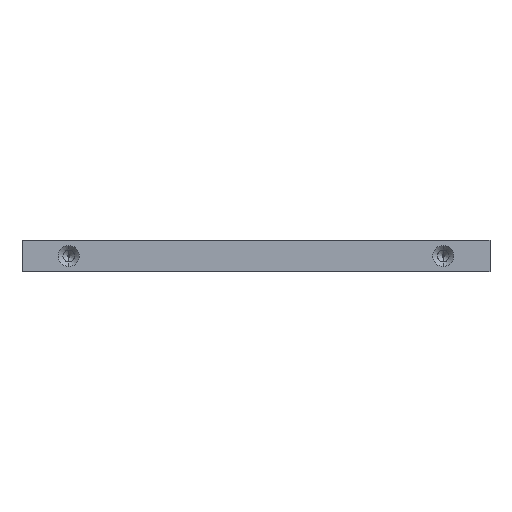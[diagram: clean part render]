
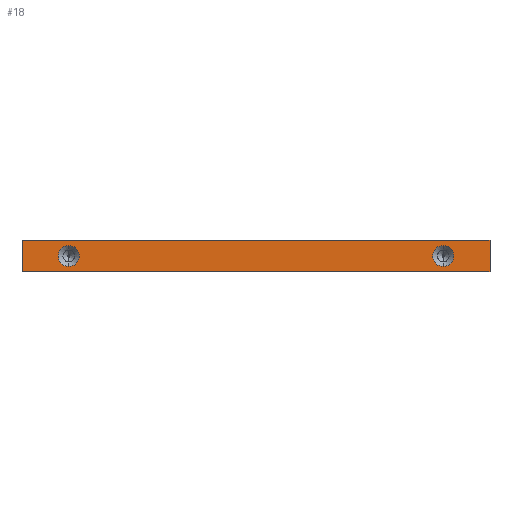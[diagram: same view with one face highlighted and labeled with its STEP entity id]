
A CAD part, front view. The second image highlights one B-rep face of the part: STEP entity #18.
In plain terms, the highlighted planar face has unit normal (0, -1, 0).
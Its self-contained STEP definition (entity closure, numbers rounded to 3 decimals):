
#18 = ADVANCED_FACE ( 'NONE', ( #990, #993, #928 ), #4133, .F. ) ;
#176 = CARTESIAN_POINT ( 'NONE',  ( -15., -15., 0. ) ) ;
#181 = DIRECTION ( 'NONE',  ( 1., 0., 0. ) ) ;
#520 = CARTESIAN_POINT ( 'NONE',  ( 15., -15., 2. ) ) ;
#521 = DIRECTION ( 'NONE',  ( 0., 0., -1. ) ) ;
#587 = CARTESIAN_POINT ( 'NONE',  ( -15., -15., 2. ) ) ;
#599 = DIRECTION ( 'NONE',  ( 1., 0., 0. ) ) ;
#605 = VERTEX_POINT ( 'NONE', #4299 ) ;
#631 = VERTEX_POINT ( 'NONE', #4282 ) ;
#645 = VERTEX_POINT ( 'NONE', #4302 ) ;
#665 = VERTEX_POINT ( 'NONE', #4327 ) ;
#691 = CARTESIAN_POINT ( 'NONE',  ( -12., -15., 1. ) ) ;
#692 = DIRECTION ( 'NONE',  ( 0., 1., 0. ) ) ;
#693 = DIRECTION ( 'NONE',  ( 0., 0., 1. ) ) ;
#698 = VERTEX_POINT ( 'NONE', #4339 ) ;
#709 = VERTEX_POINT ( 'NONE', #4330 ) ;
#741 = VERTEX_POINT ( 'NONE', #4321 ) ;
#753 = VERTEX_POINT ( 'NONE', #4372 ) ;
#784 = EDGE_LOOP ( 'NONE', ( #1389, #1454 ) ) ;
#827 = EDGE_LOOP ( 'NONE', ( #1489, #1485 ) ) ;
#842 = EDGE_LOOP ( 'NONE', ( #1453, #1476, #1505, #1452 ) ) ;
#928 = FACE_OUTER_BOUND ( 'NONE', #842, .T. ) ;
#990 = FACE_BOUND ( 'NONE', #827, .T. ) ;
#993 = FACE_BOUND ( 'NONE', #784, .T. ) ;
#1085 = DIRECTION ( 'NONE',  ( 0., 0., -1. ) ) ;
#1108 = DIRECTION ( 'NONE',  ( 0., 0., 1. ) ) ;
#1131 = CARTESIAN_POINT ( 'NONE',  ( 12., -15., 1. ) ) ;
#1142 = DIRECTION ( 'NONE',  ( 0., 1., 0. ) ) ;
#1168 = CARTESIAN_POINT ( 'NONE',  ( -15., -15., 2. ) ) ;
#1389 = ORIENTED_EDGE ( 'NONE', *, *, #1912, .T. ) ;
#1452 = ORIENTED_EDGE ( 'NONE', *, *, #1996, .T. ) ;
#1453 = ORIENTED_EDGE ( 'NONE', *, *, #1939, .T. ) ;
#1454 = ORIENTED_EDGE ( 'NONE', *, *, #1969, .T. ) ;
#1476 = ORIENTED_EDGE ( 'NONE', *, *, #1957, .F. ) ;
#1485 = ORIENTED_EDGE ( 'NONE', *, *, #1992, .T. ) ;
#1489 = ORIENTED_EDGE ( 'NONE', *, *, #2141, .T. ) ;
#1505 = ORIENTED_EDGE ( 'NONE', *, *, #1964, .F. ) ;
#1651 = AXIS2_PLACEMENT_3D ( 'NONE', #2383, #2384, #2360 ) ;
#1695 = AXIS2_PLACEMENT_3D ( 'NONE', #691, #692, #693 ) ;
#1705 = AXIS2_PLACEMENT_3D ( 'NONE', #3167, #3172, #3187 ) ;
#1717 = AXIS2_PLACEMENT_3D ( 'NONE', #1131, #1142, #1108 ) ;
#1912 = EDGE_CURVE ( 'NONE', #631, #605, #3822, .T. ) ;
#1939 = EDGE_CURVE ( 'NONE', #709, #753, #3751, .T. ) ;
#1957 = EDGE_CURVE ( 'NONE', #665, #753, #3861, .T. ) ;
#1964 = EDGE_CURVE ( 'NONE', #741, #665, #3808, .T. ) ;
#1969 = EDGE_CURVE ( 'NONE', #605, #631, #3900, .T. ) ;
#1992 = EDGE_CURVE ( 'NONE', #698, #645, #3883, .T. ) ;
#1996 = EDGE_CURVE ( 'NONE', #741, #709, #3905, .T. ) ;
#2070 = AXIS2_PLACEMENT_3D ( 'NONE', #4150, #4185, #4181 ) ;
#2141 = EDGE_CURVE ( 'NONE', #645, #698, #3622, .T. ) ;
#2360 = DIRECTION ( 'NONE',  ( 0., 0., 1. ) ) ;
#2383 = CARTESIAN_POINT ( 'NONE',  ( -12., -15., 1. ) ) ;
#2384 = DIRECTION ( 'NONE',  ( 0., 1., 0. ) ) ;
#3167 = CARTESIAN_POINT ( 'NONE',  ( 12., -15., 1. ) ) ;
#3172 = DIRECTION ( 'NONE',  ( 0., 1., 0. ) ) ;
#3187 = DIRECTION ( 'NONE',  ( 0., 0., 1. ) ) ;
#3622 = CIRCLE ( 'NONE', #1705, 0.675 ) ;
#3751 = LINE ( 'NONE', #176, #3754 ) ;
#3754 = VECTOR ( 'NONE', #181, 1000. ) ;
#3758 = VECTOR ( 'NONE', #521, 1000. ) ;
#3808 = LINE ( 'NONE', #587, #3887 ) ;
#3822 = CIRCLE ( 'NONE', #1651, 0.675 ) ;
#3861 = LINE ( 'NONE', #520, #3758 ) ;
#3869 = VECTOR ( 'NONE', #1085, 1000. ) ;
#3883 = CIRCLE ( 'NONE', #1717, 0.675 ) ;
#3887 = VECTOR ( 'NONE', #599, 1000. ) ;
#3900 = CIRCLE ( 'NONE', #1695, 0.675 ) ;
#3905 = LINE ( 'NONE', #1168, #3869 ) ;
#4133 = PLANE ( 'NONE',  #2070 ) ;
#4150 = CARTESIAN_POINT ( 'NONE',  ( -15., -15., 2. ) ) ;
#4181 = DIRECTION ( 'NONE',  ( 0., 0., 1. ) ) ;
#4185 = DIRECTION ( 'NONE',  ( 0., 1., 0. ) ) ;
#4282 = CARTESIAN_POINT ( 'NONE',  ( -12., -15., 0.325 ) ) ;
#4299 = CARTESIAN_POINT ( 'NONE',  ( -12., -15., 1.675 ) ) ;
#4302 = CARTESIAN_POINT ( 'NONE',  ( 12., -15., 0.325 ) ) ;
#4321 = CARTESIAN_POINT ( 'NONE',  ( -15., -15., 2. ) ) ;
#4327 = CARTESIAN_POINT ( 'NONE',  ( 15., -15., 2. ) ) ;
#4330 = CARTESIAN_POINT ( 'NONE',  ( -15., -15., 0. ) ) ;
#4339 = CARTESIAN_POINT ( 'NONE',  ( 12., -15., 1.675 ) ) ;
#4372 = CARTESIAN_POINT ( 'NONE',  ( 15., -15., 0. ) ) ;
